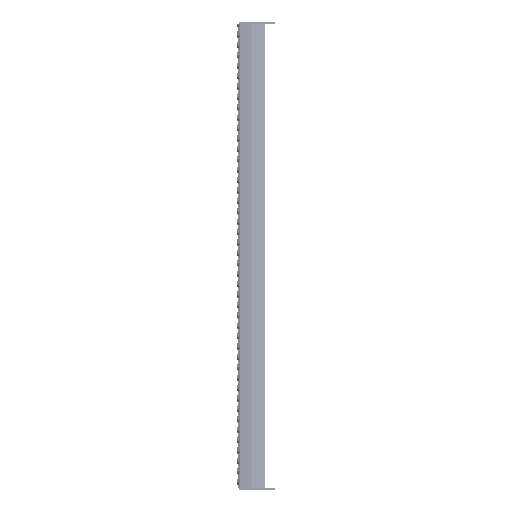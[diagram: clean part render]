
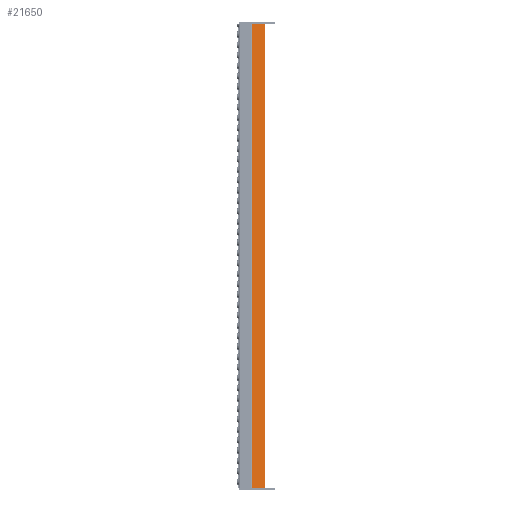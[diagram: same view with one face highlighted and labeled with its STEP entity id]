
A CAD part, left-side view. The second image highlights one B-rep face of the part: STEP entity #21650.
In plain terms, the highlighted planar face has unit normal (-0.94, -0.342, 0).
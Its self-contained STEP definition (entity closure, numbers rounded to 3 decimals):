
#2243=FACE_OUTER_BOUND('',#3714,.T.);
#3714=EDGE_LOOP('',(#17047,#17048,#17049,#17050));
#5135=LINE('',#37283,#7569);
#5154=LINE('',#37330,#7588);
#5156=LINE('',#37336,#7590);
#5160=LINE('',#37343,#7594);
#7569=VECTOR('',#27166,10.);
#7588=VECTOR('',#27209,10.);
#7590=VECTOR('',#27215,10.);
#7594=VECTOR('',#27223,10.);
#10112=VERTEX_POINT('',#37280);
#10113=VERTEX_POINT('',#37282);
#10129=VERTEX_POINT('',#37329);
#10131=VERTEX_POINT('',#37335);
#12580=EDGE_CURVE('',#10113,#10112,#5135,.T.);
#12604=EDGE_CURVE('',#10112,#10129,#5154,.T.);
#12607=EDGE_CURVE('',#10131,#10113,#5156,.T.);
#12611=EDGE_CURVE('',#10129,#10131,#5160,.T.);
#17047=ORIENTED_EDGE('',*,*,#12604,.T.);
#17048=ORIENTED_EDGE('',*,*,#12611,.T.);
#17049=ORIENTED_EDGE('',*,*,#12607,.T.);
#17050=ORIENTED_EDGE('',*,*,#12580,.T.);
#20371=PLANE('',#23456);
#21650=ADVANCED_FACE('',(#2243),#20371,.T.);
#23456=AXIS2_PLACEMENT_3D('',#37342,#27221,#27222);
#27166=DIRECTION('',(-0.342,0.94,0.));
#27209=DIRECTION('',(0.,0.,-1.));
#27215=DIRECTION('',(0.,0.,1.));
#27221=DIRECTION('center_axis',(-0.94,-0.342,0.));
#27222=DIRECTION('ref_axis',(0.,0.,1.));
#27223=DIRECTION('',(0.342,-0.94,0.));
#37280=CARTESIAN_POINT('',(0.196,-25.539,894.));
#37282=CARTESIAN_POINT('',(9.099,-50.,894.));
#37283=CARTESIAN_POINT('',(0.,-25.,894.));
#37329=CARTESIAN_POINT('',(0.196,-25.539,0.));
#37330=CARTESIAN_POINT('',(0.196,-25.539,0.));
#37335=CARTESIAN_POINT('',(9.099,-50.,0.));
#37336=CARTESIAN_POINT('',(9.099,-50.,0.));
#37342=CARTESIAN_POINT('Origin',(9.099,-50.,0.));
#37343=CARTESIAN_POINT('',(0.,-25.,0.));
